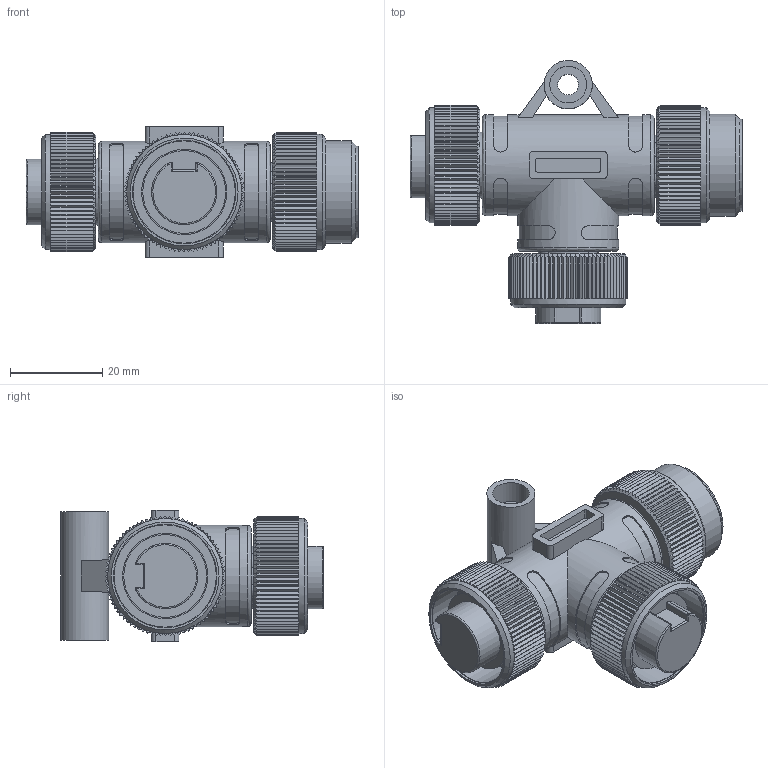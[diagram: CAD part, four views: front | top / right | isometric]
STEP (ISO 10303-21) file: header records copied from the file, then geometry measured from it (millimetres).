
FILE_DESCRIPTION (( 'STEP AP203' ), '1' );
FILE_NAME ('RSM-2RKM-Bottom_KeyWay_UP.step', '2019-12-23T13:25:03', ( '' ), ( '' ), 'SwSTEP 2.0', 'SolidWorks 2017', '' );
FILE_SCHEMA (( 'CONFIG_CONTROL_DESIGN' ));
Length unit declared in the file: millimetre
Products named in the file (1): RSM-2RKM-Bottom_KeyWay_UP
Bounding box: 72.15 x 57.15 x 28.5 mm (x, y, z)
Volume: 36641.5 mm3; surface area: 17266.8 mm2
Topology: 1 solids, 3 shells, 1165 faces, 2879 edges, 1748 vertices
Faces by surface type: plane 804, cylinder 338, bspline 13, cone 7, torus 3
Full cylindrical faces by diameter (mm): 2.5 x2, 4.5 x1, 8 x2, 10.5 x1, 14.414 x1, 15.5 x1, 16 x1, 18 x3, 18.5 x3, 18.6 x1, 19.5 x1, 19.9 x1, 21.996 x2, 22.225 x3, 22.5 x2, 25 x3
Entity records: 35254 total; most frequent: CARTESIAN_POINT 9151, ORIENTED_EDGE 5616, DIRECTION 5063, EDGE_CURVE 2808, AXIS2_PLACEMENT_3D 1852, VERTEX_POINT 1726, VECTOR 1359, LINE 1359
